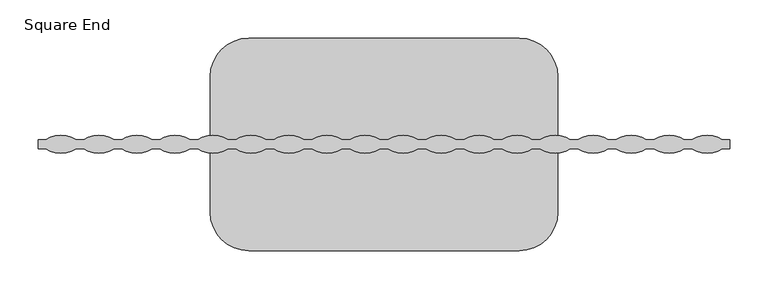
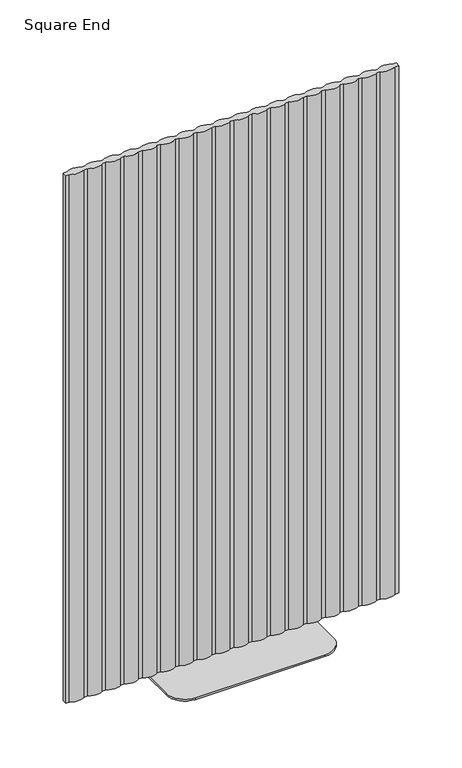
"""IFC4 building model written with IfcOpenShell, lengths in millimetres: furniture geometry, KFI Studios - Calm - Straight Screen : Square End."""

from ifc_helpers import new_model, si_unit, point, frame, frame_2d, origin, origin_with_axes, place, context, project, spatial, polyline, circle_curve, trimmed, segment, composite_curve, outline, extrude, source, transform, mapped, element, save


def square_end_dfce1c3f(model_context):
    return source(origin(), model_context, "Body", "SweptSolid", [
        extrude(outline(composite_curve([segment(trimmed(circle_curve(frame_2d((-424.9999232, 24.3937863)), 36.4895119), [point((-404.9999704, -6.1264753))], [point((-444.9998761, -6.1264753))], False, "CARTESIAN"), True, "CONTINUOUS"), segment(polyline([(-444.9998761, -6.1264753), (-455.0000253, -6.1264753), (-455.0000253, 6.1264753), (-444.9998761, 6.1264753)]), True, "CONTINUOUS"), segment(trimmed(circle_curve(frame_2d((-424.9999232, -24.3937863)), 36.4895119), [point((-444.9998761, 6.1264753))], [point((-404.9999704, 6.1264753))], False, "CARTESIAN"), True, "CONTINUOUS"), segment(polyline([(-404.9999704, 6.1264753), (-394.9998575, 6.1264753)]), True, "CONTINUOUS"), segment(trimmed(circle_curve(frame_2d((-374.999883, -24.3937721)), 36.4895119), [point((-394.9998575, 6.1264753))], [point((-354.9999085, 6.1264753))], False, "CARTESIAN"), True, "CONTINUOUS"), segment(polyline([(-354.9999085, 6.1264753), (-344.9998027, 6.1264753)]), True, "CONTINUOUS"), segment(trimmed(circle_curve(frame_2d((-324.99981, -24.3937602)), 36.4895119), [point((-344.9998027, 6.1264753))], [point((-304.9998173, 6.1264753))], False, "CARTESIAN"), True, "CONTINUOUS"), segment(polyline([(-304.9998173, 6.1264753), (-294.999785, 6.1264753)]), True, "CONTINUOUS"), segment(trimmed(circle_curve(frame_2d((-274.9997733, -24.3937477)), 36.4895119), [point((-294.999785, 6.1264753))], [point((-254.9997615, 6.1264753))], False, "CARTESIAN"), True, "CONTINUOUS"), segment(polyline([(-254.9997615, 6.1264753), (-244.9999482, 6.1264753)]), True, "CONTINUOUS"), segment(trimmed(circle_curve(frame_2d((-224.9999182, -24.3937358)), 36.4895119), [point((-244.9999482, 6.1264753))], [point((-204.9998883, 6.1264753))], False, "CARTESIAN"), True, "CONTINUOUS"), segment(polyline([(-204.9998883, 6.1264753), (-194.9999106, 6.1264753)]), True, "CONTINUOUS"), segment(trimmed(circle_curve(frame_2d((-174.9998633, -24.3937244)), 36.4895119), [point((-194.9999106, 6.1264753))], [point((-154.9998161, 6.1264753))], False, "CARTESIAN"), True, "CONTINUOUS"), segment(polyline([(-154.9998161, 6.1264753), (-144.999883, 6.1264753)]), True, "CONTINUOUS"), segment(trimmed(circle_curve(frame_2d((-124.9998175, -24.3937125)), 36.4895119), [point((-144.999883, 6.1264753))], [point((-104.9997521, 6.1264753))], False, "CARTESIAN"), True, "CONTINUOUS"), segment(polyline([(-104.9997521, 6.1264753), (-94.9998563, 6.1264753)]), True, "CONTINUOUS"), segment(trimmed(circle_curve(frame_2d((-74.9997717, -24.3937)), 36.4895119), [point((-94.9998563, 6.1264753))], [point((-54.9996872, 6.1264753))], False, "CARTESIAN"), True, "CONTINUOUS"), segment(polyline([(-54.9996872, 6.1264753), (-44.9999232, 6.1264753)]), True, "CONTINUOUS"), segment(trimmed(circle_curve(frame_2d((-24.9998213, -24.3936887)), 36.4895119), [point((-44.9999232, 6.1264753))], [point((-4.9998685, 6.1265729))], False, "CARTESIAN"), True, "CONTINUOUS"), segment(polyline([(-4.9998685, 6.1265729), (4.9998685, 6.1265729)]), True, "CONTINUOUS"), segment(trimmed(circle_curve(frame_2d((24.9998213, -24.3936887)), 36.4895119), [point((4.9998685, 6.1265729))], [point((44.9999232, 6.1264753))], False, "CARTESIAN"), True, "CONTINUOUS"), segment(polyline([(44.9999232, 6.1264753), (54.9996872, 6.1264753)]), True, "CONTINUOUS"), segment(trimmed(circle_curve(frame_2d((74.9997717, -24.3937)), 36.4895119), [point((54.9996872, 6.1264753))], [point((94.9998563, 6.1264753))], False, "CARTESIAN"), True, "CONTINUOUS"), segment(polyline([(94.9998563, 6.1264753), (104.9997521, 6.1264753)]), True, "CONTINUOUS"), segment(trimmed(circle_curve(frame_2d((124.9998175, -24.3937125)), 36.4895119), [point((104.9997521, 6.1264753))], [point((144.999883, 6.1264753))], False, "CARTESIAN"), True, "CONTINUOUS"), segment(polyline([(144.999883, 6.1264753), (154.9998161, 6.1264753)]), True, "CONTINUOUS"), segment(trimmed(circle_curve(frame_2d((174.9998633, -24.3937244)), 36.4895119), [point((154.9998161, 6.1264753))], [point((194.9999106, 6.1264753))], False, "CARTESIAN"), True, "CONTINUOUS"), segment(polyline([(194.9999106, 6.1264753), (204.9998883, 6.1264753)]), True, "CONTINUOUS"), segment(trimmed(circle_curve(frame_2d((224.9999182, -24.3937358)), 36.4895119), [point((204.9998883, 6.1264753))], [point((244.9999482, 6.1264753))], False, "CARTESIAN"), True, "CONTINUOUS"), segment(polyline([(244.9999482, 6.1264753), (254.9997615, 6.1264753)]), True, "CONTINUOUS"), segment(trimmed(circle_curve(frame_2d((274.9997733, -24.3937477)), 36.4895119), [point((254.9997615, 6.1264753))], [point((294.999785, 6.1264753))], False, "CARTESIAN"), True, "CONTINUOUS"), segment(polyline([(294.999785, 6.1264753), (304.9998173, 6.1264753)]), True, "CONTINUOUS"), segment(trimmed(circle_curve(frame_2d((324.99981, -24.3937602)), 36.4895119), [point((304.9998173, 6.1264753))], [point((344.9998027, 6.1264753))], False, "CARTESIAN"), True, "CONTINUOUS"), segment(polyline([(344.9998027, 6.1264753), (354.9999085, 6.1264753)]), True, "CONTINUOUS"), segment(trimmed(circle_curve(frame_2d((374.999883, -24.3937721)), 36.4895119), [point((354.9999085, 6.1264753))], [point((394.9998575, 6.1264753))], False, "CARTESIAN"), True, "CONTINUOUS"), segment(polyline([(394.9998575, 6.1264753), (404.9999704, 6.1264753)]), True, "CONTINUOUS"), segment(trimmed(circle_curve(frame_2d((424.9999232, -24.3937863)), 36.4895119), [point((404.9999704, 6.1264753))], [point((444.9998761, 6.1264753))], False, "CARTESIAN"), True, "CONTINUOUS"), segment(polyline([(444.9998761, 6.1264753), (455.0000253, 6.1264753), (455.0000253, -6.1264753), (444.9998761, -6.1264753)]), True, "CONTINUOUS"), segment(trimmed(circle_curve(frame_2d((424.9999232, 24.3937863)), 36.4895119), [point((444.9998761, -6.1264753))], [point((404.9999704, -6.1264753))], False, "CARTESIAN"), True, "CONTINUOUS"), segment(polyline([(404.9999704, -6.1264753), (394.9998575, -6.1264753)]), True, "CONTINUOUS"), segment(trimmed(circle_curve(frame_2d((374.999883, 24.3937721)), 36.4895119), [point((394.9998575, -6.1264753))], [point((354.9999085, -6.1264753))], False, "CARTESIAN"), True, "CONTINUOUS"), segment(polyline([(354.9999085, -6.1264753), (344.9998027, -6.1264753)]), True, "CONTINUOUS"), segment(trimmed(circle_curve(frame_2d((324.99981, 24.3937602)), 36.4895119), [point((344.9998027, -6.1264753))], [point((304.9998173, -6.1264753))], False, "CARTESIAN"), True, "CONTINUOUS"), segment(polyline([(304.9998173, -6.1264753), (294.999785, -6.1264753)]), True, "CONTINUOUS"), segment(trimmed(circle_curve(frame_2d((274.9997733, 24.3937477)), 36.4895119), [point((294.999785, -6.1264753))], [point((254.9997615, -6.1264753))], False, "CARTESIAN"), True, "CONTINUOUS"), segment(polyline([(254.9997615, -6.1264753), (244.9999482, -6.1264753)]), True, "CONTINUOUS"), segment(trimmed(circle_curve(frame_2d((224.9999182, 24.3937358)), 36.4895119), [point((244.9999482, -6.1264753))], [point((204.9998883, -6.1264753))], False, "CARTESIAN"), True, "CONTINUOUS"), segment(polyline([(204.9998883, -6.1264753), (194.9999106, -6.1264753)]), True, "CONTINUOUS"), segment(trimmed(circle_curve(frame_2d((174.9998633, 24.3937244)), 36.4895119), [point((194.9999106, -6.1264753))], [point((154.9998161, -6.1264753))], False, "CARTESIAN"), True, "CONTINUOUS"), segment(polyline([(154.9998161, -6.1264753), (144.999883, -6.1264753)]), True, "CONTINUOUS"), segment(trimmed(circle_curve(frame_2d((124.9998175, 24.3937125)), 36.4895119), [point((144.999883, -6.1264753))], [point((104.9997521, -6.1264753))], False, "CARTESIAN"), True, "CONTINUOUS"), segment(polyline([(104.9997521, -6.1264753), (94.9998563, -6.1264753)]), True, "CONTINUOUS"), segment(trimmed(circle_curve(frame_2d((74.9997717, 24.3937)), 36.4895119), [point((94.9998563, -6.1264753))], [point((54.9996872, -6.1264753))], False, "CARTESIAN"), True, "CONTINUOUS"), segment(polyline([(54.9996872, -6.1264753), (44.9999232, -6.1264753)]), True, "CONTINUOUS"), segment(trimmed(circle_curve(frame_2d((24.9998213, 24.3936887)), 36.4895119), [point((44.9999232, -6.1264753))], [point((4.9998685, -6.1265729))], False, "CARTESIAN"), True, "CONTINUOUS"), segment(polyline([(4.9998685, -6.1265729), (-4.9998685, -6.1265729)]), True, "CONTINUOUS"), segment(trimmed(circle_curve(frame_2d((-24.9998213, 24.3936887)), 36.4895119), [point((-4.9998685, -6.1265729))], [point((-44.9999232, -6.1264753))], False, "CARTESIAN"), True, "CONTINUOUS"), segment(polyline([(-44.9999232, -6.1264753), (-54.9996872, -6.1264753)]), True, "CONTINUOUS"), segment(trimmed(circle_curve(frame_2d((-74.9997717, 24.3937)), 36.4895119), [point((-54.9996872, -6.1264753))], [point((-94.9998563, -6.1264753))], False, "CARTESIAN"), True, "CONTINUOUS"), segment(polyline([(-94.9998563, -6.1264753), (-104.9997521, -6.1264753)]), True, "CONTINUOUS"), segment(trimmed(circle_curve(frame_2d((-124.9998175, 24.3937125)), 36.4895119), [point((-104.9997521, -6.1264753))], [point((-144.999883, -6.1264753))], False, "CARTESIAN"), True, "CONTINUOUS"), segment(polyline([(-144.999883, -6.1264753), (-154.9998161, -6.1264753)]), True, "CONTINUOUS"), segment(trimmed(circle_curve(frame_2d((-174.9998633, 24.3937244)), 36.4895119), [point((-154.9998161, -6.1264753))], [point((-194.9999106, -6.1264753))], False, "CARTESIAN"), True, "CONTINUOUS"), segment(polyline([(-194.9999106, -6.1264753), (-204.9998883, -6.1264753)]), True, "CONTINUOUS"), segment(trimmed(circle_curve(frame_2d((-224.9999182, 24.3937358)), 36.4895119), [point((-204.9998883, -6.1264753))], [point((-244.9999482, -6.1264753))], False, "CARTESIAN"), True, "CONTINUOUS"), segment(polyline([(-244.9999482, -6.1264753), (-254.9997615, -6.1264753)]), True, "CONTINUOUS"), segment(trimmed(circle_curve(frame_2d((-274.9997733, 24.3937477)), 36.4895119), [point((-254.9997615, -6.1264753))], [point((-294.999785, -6.1264753))], False, "CARTESIAN"), True, "CONTINUOUS"), segment(polyline([(-294.999785, -6.1264753), (-304.9998173, -6.1264753)]), True, "CONTINUOUS"), segment(trimmed(circle_curve(frame_2d((-324.99981, 24.3937602)), 36.4895119), [point((-304.9998173, -6.1264753))], [point((-344.9998027, -6.1264753))], False, "CARTESIAN"), True, "CONTINUOUS"), segment(polyline([(-344.9998027, -6.1264753), (-354.9999085, -6.1264753)]), True, "CONTINUOUS"), segment(trimmed(circle_curve(frame_2d((-374.999883, 24.3937721)), 36.4895119), [point((-354.9999085, -6.1264753))], [point((-394.9998575, -6.1264753))], False, "CARTESIAN"), True, "CONTINUOUS"), segment(polyline([(-394.9998575, -6.1264753), (-404.9999704, -6.1264753)]), True, "CONTINUOUS")], self_intersect=False)), frame((0.0, 0.0, 5.2700272), z_axis=(0.0, 0.0, 1.0), x_axis=(1.0, 0.0, 0.0)), (0.0, 0.0, 1.0), 1523.9885666),
        extrude(outline(composite_curve([segment(trimmed(circle_curve(frame_2d((-177.8004845, -88.8998244)), 50.8000061), [point((-177.8004845, -139.6998304))], [point((-228.6004905, -88.8998244))], False, "CARTESIAN"), True, "CONTINUOUS"), segment(polyline([(-228.6004905, -88.8998244), (-228.6004905, 88.9001696)]), True, "CONTINUOUS"), segment(trimmed(circle_curve(frame_2d((-177.8004936, 88.9001696)), 50.799997), [point((-228.6004905, 88.9001696))], [point((-177.8004936, 139.7001665))], False, "CARTESIAN"), True, "CONTINUOUS"), segment(polyline([(-177.8004936, 139.7001665), (177.8004936, 139.7001665)]), True, "CONTINUOUS"), segment(trimmed(circle_curve(frame_2d((177.8004936, 88.9001696)), 50.799997), [point((177.8004936, 139.7001665))], [point((228.6004905, 88.9001696))], False, "CARTESIAN"), True, "CONTINUOUS"), segment(polyline([(228.6004905, 88.9001696), (228.6004905, -88.8998244)]), True, "CONTINUOUS"), segment(trimmed(circle_curve(frame_2d((177.8004845, -88.8998244)), 50.8000061), [point((228.6004905, -88.8998244))], [point((177.8004845, -139.6998304))], False, "CARTESIAN"), True, "CONTINUOUS"), segment(polyline([(177.8004845, -139.6998304), (-177.8004845, -139.6998304)]), True, "CONTINUOUS")], self_intersect=False)), origin_with_axes(), (0.0, 0.0, 1.0), 5.2700272),
    ])


if __name__ == "__main__":
    model = new_model("IFC4")
    model_context = context("Model", 3, world=origin())
    ifc_project = project(units=[si_unit("LENGTHUNIT", "METRE", prefix="MILLI")], contexts=[model_context])
    site = spatial("IfcSite", under=ifc_project)
    building = spatial("IfcBuilding", under=site)
    placement = place(None, origin())
    square_end_shape = square_end_dfce1c3f(model_context)
    element("IfcFurniture", 1, ObjectType="KFI Studios - Calm - Straight Screen : Square End", at=placement, inside=building, context=model_context, shape_type="MappedRepresentation", body=[
        mapped(square_end_shape, transform((0.0, 0.0, 0.0), x_axis=(1.0, 0.0, 0.0), y_axis=(0.0, 1.0, 0.0), z_axis=(0.0, 0.0, 1.0))),
    ])
    save(model, "model.ifc")
